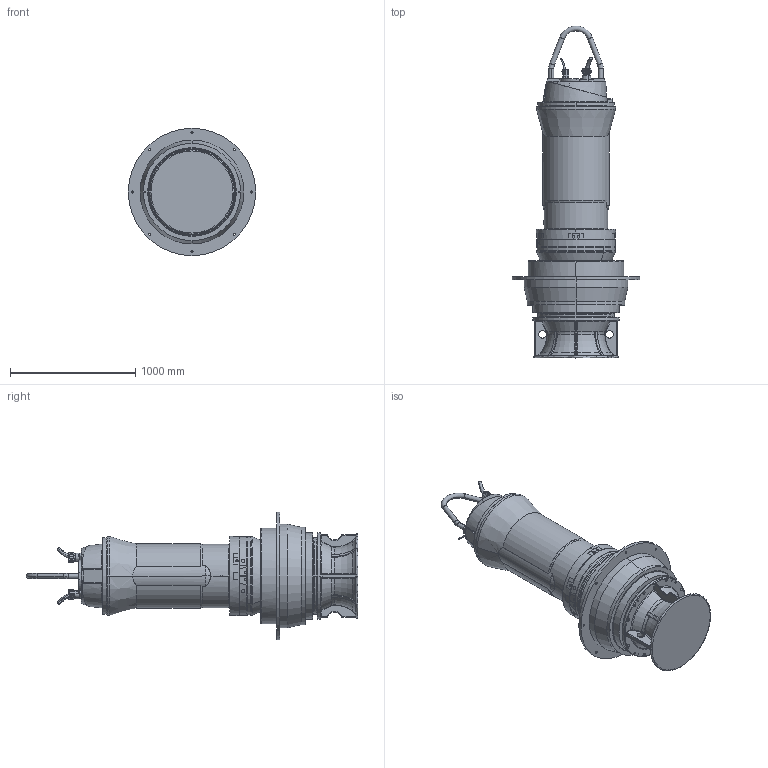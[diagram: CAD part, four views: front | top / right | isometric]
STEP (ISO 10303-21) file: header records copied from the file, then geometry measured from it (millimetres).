
FILE_DESCRIPTION (( 'STEP AP214' ), '1' );
FILE_NAME ('PE6_AFLX0800_FU_A_NG2.STEP', '2017-04-20T07:48:54', ( '' ), ( '' ), 'SwSTEP 2.0', 'SolidWorks 2017', '' );
FILE_SCHEMA (( 'AUTOMOTIVE_DESIGN' ));
Length unit declared in the file: millimetre
Products named in the file (1): PE6_AFLX0800_FU_A_NG2
Bounding box: 1015 x 2645.9 x 1015 mm (x, y, z)
Volume: 618386221.7 mm3; surface area: 7789529 mm2
Topology: 4 solids, 16 shells, 2073 faces, 5005 edges, 2963 vertices
Faces by surface type: plane 616, cylinder 488, bspline 431, torus 245, cone 219, sphere 74
Entity records: 107681 total; most frequent: CARTESIAN_POINT 39752, ORIENTED_EDGE 9862, DIRECTION 8737, EDGE_CURVE 4931, AXIS2_PLACEMENT_3D 3485, VERTEX_POINT 2963, EDGE_LOOP 2254, UNCERTAINTY_MEASURE_WITH_UNIT 2079
